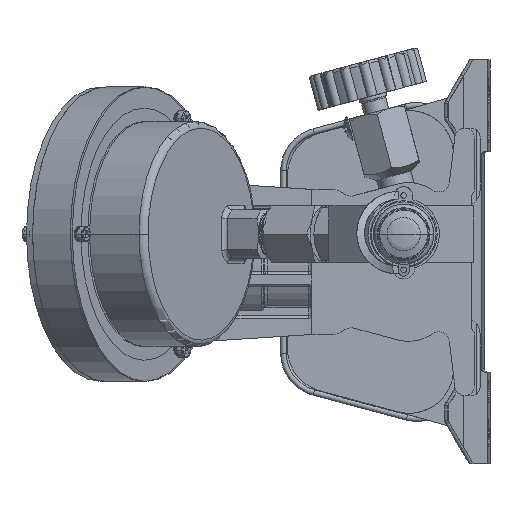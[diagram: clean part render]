
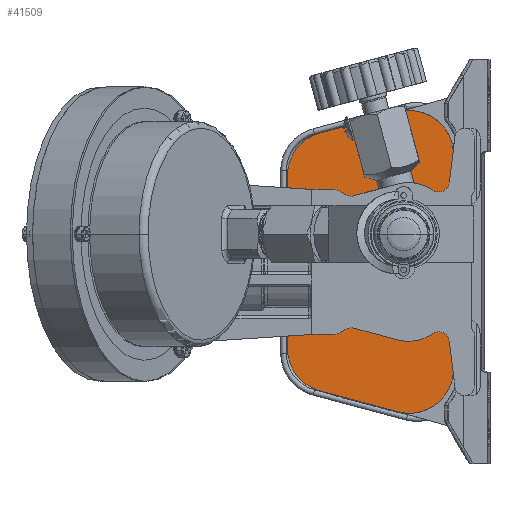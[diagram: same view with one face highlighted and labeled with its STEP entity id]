
A CAD part, left-side view. The second image highlights one B-rep face of the part: STEP entity #41509.
In plain terms, the highlighted planar face has unit normal (-1, 0, 0).
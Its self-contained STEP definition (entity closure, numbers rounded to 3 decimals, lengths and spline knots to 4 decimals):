
#332=CARTESIAN_POINT('',(5.12,1.049,-1.891));
#333=DIRECTION('',(1.,0.,0.));
#334=DIRECTION('',(0.,-0.995,-0.1));
#335=AXIS2_PLACEMENT_3D('',#332,#333,#334);
#337=DIRECTION('',(0.,0.966,0.259));
#338=VECTOR('',#337,1.4204);
#339=CARTESIAN_POINT('',(5.12,1.2506,-2.6435));
#340=LINE('',#339,#338);
#341=CARTESIAN_POINT('',(5.12,2.421,-1.5234));
#342=DIRECTION('',(1.,0.,0.));
#343=DIRECTION('',(0.,0.259,-0.966));
#344=AXIS2_PLACEMENT_3D('',#341,#342,#343);
#346=DIRECTION('',(0.,0.,1.));
#347=VECTOR('',#346,3.0467);
#348=CARTESIAN_POINT('',(5.12,3.2,-1.5234));
#349=LINE('',#348,#347);
#350=CARTESIAN_POINT('',(5.12,2.421,1.5234));
#351=DIRECTION('',(1.,0.,0.));
#352=DIRECTION('',(0.,1.,0.));
#353=AXIS2_PLACEMENT_3D('',#350,#351,#352);
#355=DIRECTION('',(0.,-0.966,0.259));
#356=VECTOR('',#355,1.4204);
#357=CARTESIAN_POINT('',(5.12,2.6226,2.2758));
#358=LINE('',#357,#356);
#359=CARTESIAN_POINT('',(5.12,1.049,1.891));
#360=DIRECTION('',(1.,0.,0.));
#361=DIRECTION('',(0.,0.259,0.966));
#362=AXIS2_PLACEMENT_3D('',#359,#360,#361);
#364=DIRECTION('',(0.,-1.,0.));
#365=VECTOR('',#364,0.3832);
#366=CARTESIAN_POINT('',(5.12,2.77,1.28));
#367=LINE('',#366,#365);
#380=CARTESIAN_POINT('',(5.12,2.3868,1.09));
#381=DIRECTION('',(1.,0.,0.));
#382=DIRECTION('',(0.,0.,1.));
#383=AXIS2_PLACEMENT_3D('',#380,#381,#382);
#389=DIRECTION('',(0.,-0.871,-0.492));
#390=VECTOR('',#389,0.1405);
#391=CARTESIAN_POINT('',(5.12,2.2935,1.2555));
#392=LINE('',#391,#390);
#397=CARTESIAN_POINT('',(5.12,2.0777,1.3519));
#398=DIRECTION('',(1.,0.,0.));
#399=DIRECTION('',(0.,-0.259,-0.966));
#400=AXIS2_PLACEMENT_3D('',#397,#398,#399);
#406=DIRECTION('',(0.,-0.966,0.259));
#407=VECTOR('',#406,0.7964);
#408=CARTESIAN_POINT('',(5.12,2.0285,1.1683));
#409=LINE('',#408,#407);
#473=CARTESIAN_POINT('',(5.12,1.0652,0.65));
#474=DIRECTION('',(1.,0.,0.));
#475=DIRECTION('',(0.,0.259,0.966));
#476=AXIS2_PLACEMENT_3D('',#473,#474,#475);
#546=CARTESIAN_POINT('',(5.12,0.5322,1.4243));
#547=DIRECTION('',(1.,0.,0.));
#548=DIRECTION('',(0.,-0.993,-0.122));
#549=AXIS2_PLACEMENT_3D('',#546,#547,#548);
#555=DIRECTION('',(0.,-0.122,0.993));
#556=VECTOR('',#555,0.572);
#557=CARTESIAN_POINT('',(5.12,0.3436,1.4012));
#558=LINE('',#557,#556);
#2807=DIRECTION('',(0.,-0.122,-0.993));
#2808=VECTOR('',#2807,0.572);
#2809=CARTESIAN_POINT('',(5.12,0.3436,-1.4012));
#2810=LINE('',#2809,#2808);
#2815=CARTESIAN_POINT('',(5.12,0.5322,-1.4243));
#2816=DIRECTION('',(1.,0.,0.));
#2817=DIRECTION('',(0.,0.567,0.824));
#2818=AXIS2_PLACEMENT_3D('',#2815,#2816,#2817);
#2824=CARTESIAN_POINT('',(5.12,1.0652,-0.65));
#2825=DIRECTION('',(1.,0.,0.));
#2826=DIRECTION('',(0.,-0.567,-0.824));
#2827=AXIS2_PLACEMENT_3D('',#2824,#2825,#2826);
#2833=DIRECTION('',(0.,0.966,0.259));
#2834=VECTOR('',#2833,0.7964);
#2835=CARTESIAN_POINT('',(5.12,1.2593,-1.3744));
#2836=LINE('',#2835,#2834);
#2841=CARTESIAN_POINT('',(5.12,2.0777,-1.3519));
#2842=DIRECTION('',(1.,0.,0.));
#2843=DIRECTION('',(0.,0.492,0.871));
#2844=AXIS2_PLACEMENT_3D('',#2841,#2842,#2843);
#2850=DIRECTION('',(0.,0.871,-0.492));
#2851=VECTOR('',#2850,0.1405);
#2852=CARTESIAN_POINT('',(5.12,2.1711,-1.1864));
#2853=LINE('',#2852,#2851);
#2858=CARTESIAN_POINT('',(5.12,2.3868,-1.09));
#2859=DIRECTION('',(1.,0.,0.));
#2860=DIRECTION('',(0.,-0.492,-0.871));
#2861=AXIS2_PLACEMENT_3D('',#2858,#2859,#2860);
#2867=DIRECTION('',(0.,1.,0.));
#2868=VECTOR('',#2867,0.3832);
#2869=CARTESIAN_POINT('',(5.12,2.3868,-1.28));
#2870=LINE('',#2869,#2868);
#2955=DIRECTION('',(0.,0.,1.));
#2956=VECTOR('',#2955,2.56);
#2957=CARTESIAN_POINT('',(5.12,2.77,-1.28));
#2958=LINE('',#2957,#2956);
#37738=CARTESIAN_POINT('',(5.12,2.6226,2.2758));
#37739=CARTESIAN_POINT('',(5.12,1.2506,2.6435));
#37740=VERTEX_POINT('',#37738);
#37741=VERTEX_POINT('',#37739);
#37742=CARTESIAN_POINT('',(5.12,1.2506,-2.6435));
#37743=CARTESIAN_POINT('',(5.12,2.6226,-2.2758));
#37744=VERTEX_POINT('',#37742);
#37745=VERTEX_POINT('',#37743);
#37746=CARTESIAN_POINT('',(5.12,3.2,-1.5234));
#37747=CARTESIAN_POINT('',(5.12,3.2,1.5234));
#37748=VERTEX_POINT('',#37746);
#37749=VERTEX_POINT('',#37747);
#38881=CARTESIAN_POINT('',(5.12,0.2739,1.9689));
#38882=VERTEX_POINT('',#38881);
#38883=CARTESIAN_POINT('',(5.12,0.2739,-1.9689));
#38884=VERTEX_POINT('',#38883);
#38885=CARTESIAN_POINT('',(5.12,2.77,1.28));
#38886=CARTESIAN_POINT('',(5.12,2.3868,1.28));
#38887=VERTEX_POINT('',#38885);
#38888=VERTEX_POINT('',#38886);
#38889=CARTESIAN_POINT('',(5.12,2.2935,1.2555));
#38890=CARTESIAN_POINT('',(5.12,2.1711,1.1864));
#38891=VERTEX_POINT('',#38889);
#38892=VERTEX_POINT('',#38890);
#38893=CARTESIAN_POINT('',(5.12,2.0285,1.1683));
#38894=CARTESIAN_POINT('',(5.12,1.2593,1.3744));
#38895=VERTEX_POINT('',#38893);
#38896=VERTEX_POINT('',#38894);
#38897=CARTESIAN_POINT('',(5.12,0.6399,1.2678));
#38898=VERTEX_POINT('',#38897);
#38899=CARTESIAN_POINT('',(5.12,0.3436,1.4012));
#38900=VERTEX_POINT('',#38899);
#38901=CARTESIAN_POINT('',(5.12,0.3436,-1.4012));
#38902=VERTEX_POINT('',#38901);
#38903=CARTESIAN_POINT('',(5.12,0.6399,-1.2678));
#38904=VERTEX_POINT('',#38903);
#38905=CARTESIAN_POINT('',(5.12,1.2593,-1.3744));
#38906=VERTEX_POINT('',#38905);
#38907=CARTESIAN_POINT('',(5.12,2.0285,-1.1683));
#38908=VERTEX_POINT('',#38907);
#38909=CARTESIAN_POINT('',(5.12,2.1711,-1.1864));
#38910=VERTEX_POINT('',#38909);
#38911=CARTESIAN_POINT('',(5.12,2.2935,-1.2555));
#38912=VERTEX_POINT('',#38911);
#38913=CARTESIAN_POINT('',(5.12,2.3868,-1.28));
#38914=VERTEX_POINT('',#38913);
#38915=CARTESIAN_POINT('',(5.12,2.77,-1.28));
#38916=VERTEX_POINT('',#38915);
#41455=CARTESIAN_POINT('',(5.12,1.52,0.));
#41456=DIRECTION('',(1.,0.,0.));
#41457=DIRECTION('',(0.,0.,-1.));
#41458=AXIS2_PLACEMENT_3D('',#41455,#41456,#41457);
#41459=PLANE('',#41458);
#41461=ORIENTED_EDGE('',*,*,#41460,.F.);
#41463=ORIENTED_EDGE('',*,*,#41462,.F.);
#41465=ORIENTED_EDGE('',*,*,#41464,.F.);
#41467=ORIENTED_EDGE('',*,*,#41466,.F.);
#41469=ORIENTED_EDGE('',*,*,#41468,.F.);
#41471=ORIENTED_EDGE('',*,*,#41470,.T.);
#41473=ORIENTED_EDGE('',*,*,#41472,.F.);
#41475=ORIENTED_EDGE('',*,*,#41474,.F.);
#41477=ORIENTED_EDGE('',*,*,#41476,.T.);
#41479=ORIENTED_EDGE('',*,*,#41478,.T.);
#41481=ORIENTED_EDGE('',*,*,#41480,.T.);
#41483=ORIENTED_EDGE('',*,*,#41482,.T.);
#41485=ORIENTED_EDGE('',*,*,#41484,.T.);
#41487=ORIENTED_EDGE('',*,*,#41486,.T.);
#41488=ORIENTED_EDGE('',*,*,#41445,.T.);
#41490=ORIENTED_EDGE('',*,*,#41489,.T.);
#41492=ORIENTED_EDGE('',*,*,#41491,.T.);
#41494=ORIENTED_EDGE('',*,*,#41493,.F.);
#41496=ORIENTED_EDGE('',*,*,#41495,.T.);
#41498=ORIENTED_EDGE('',*,*,#41497,.F.);
#41500=ORIENTED_EDGE('',*,*,#41499,.F.);
#41502=ORIENTED_EDGE('',*,*,#41501,.T.);
#41504=ORIENTED_EDGE('',*,*,#41503,.F.);
#41506=ORIENTED_EDGE('',*,*,#41505,.F.);
#41507=EDGE_LOOP('',(#41461,#41463,#41465,#41467,#41469,#41471,#41473,#41475,
#41477,#41479,#41481,#41483,#41485,#41487,#41488,#41490,#41492,#41494,#41496,
#41498,#41500,#41502,#41504,#41506));
#41508=FACE_OUTER_BOUND('',#41507,.F.);
#41509=ADVANCED_FACE('',(#41508),#41459,.F.);
#336=CIRCLE('',#335,0.779);
#345=CIRCLE('',#344,0.779);
#354=CIRCLE('',#353,0.779);
#363=CIRCLE('',#362,0.779);
#384=CIRCLE('',#383,0.19);
#401=CIRCLE('',#400,0.19);
#477=CIRCLE('',#476,0.75);
#550=CIRCLE('',#549,0.19);
#2819=CIRCLE('',#2818,0.19);
#2828=CIRCLE('',#2827,0.75);
#2845=CIRCLE('',#2844,0.19);
#2862=CIRCLE('',#2861,0.19);
#41445=EDGE_CURVE('',#37749,#37740,#354,.T.);
#41460=EDGE_CURVE('',#38887,#38888,#367,.T.);
#41462=EDGE_CURVE('',#38916,#38887,#2958,.T.);
#41464=EDGE_CURVE('',#38914,#38916,#2870,.T.);
#41466=EDGE_CURVE('',#38912,#38914,#2862,.T.);
#41468=EDGE_CURVE('',#38910,#38912,#2853,.T.);
#41470=EDGE_CURVE('',#38910,#38908,#2845,.T.);
#41472=EDGE_CURVE('',#38906,#38908,#2836,.T.);
#41474=EDGE_CURVE('',#38904,#38906,#2828,.T.);
#41476=EDGE_CURVE('',#38904,#38902,#2819,.T.);
#41478=EDGE_CURVE('',#38902,#38884,#2810,.T.);
#41480=EDGE_CURVE('',#38884,#37744,#336,.T.);
#41482=EDGE_CURVE('',#37744,#37745,#340,.T.);
#41484=EDGE_CURVE('',#37745,#37748,#345,.T.);
#41486=EDGE_CURVE('',#37748,#37749,#349,.T.);
#41489=EDGE_CURVE('',#37740,#37741,#358,.T.);
#41491=EDGE_CURVE('',#37741,#38882,#363,.T.);
#41493=EDGE_CURVE('',#38900,#38882,#558,.T.);
#41495=EDGE_CURVE('',#38900,#38898,#550,.T.);
#41497=EDGE_CURVE('',#38896,#38898,#477,.T.);
#41499=EDGE_CURVE('',#38895,#38896,#409,.T.);
#41501=EDGE_CURVE('',#38895,#38892,#401,.T.);
#41503=EDGE_CURVE('',#38891,#38892,#392,.T.);
#41505=EDGE_CURVE('',#38888,#38891,#384,.T.);
